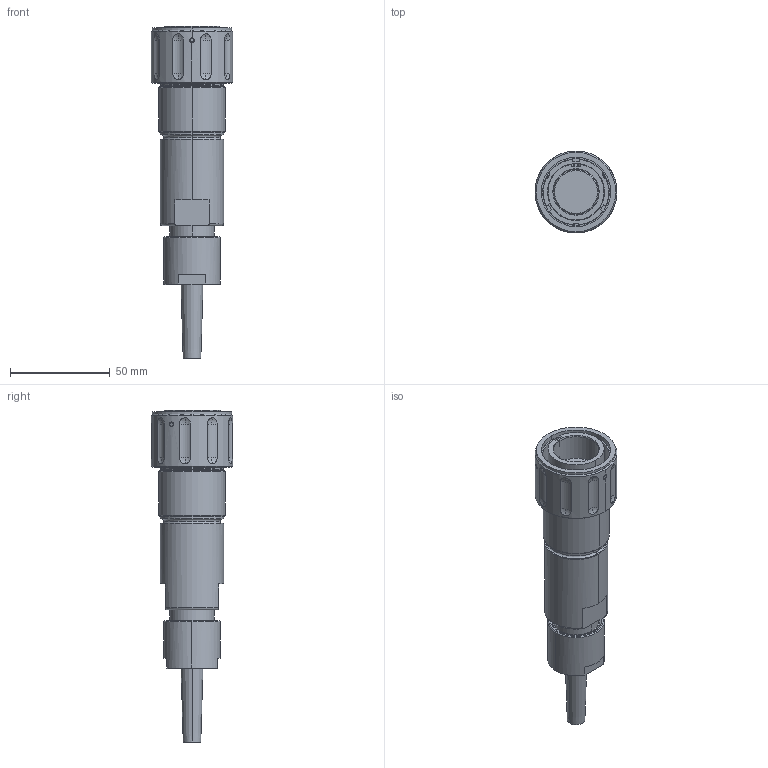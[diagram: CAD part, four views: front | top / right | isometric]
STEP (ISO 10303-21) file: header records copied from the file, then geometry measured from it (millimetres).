
FILE_DESCRIPTION (( 'STEP AP214' ), '1' );
FILE_NAME ('QLINK-PGBX-19XX-SXXX-R0.STEP', '2025-12-09T15:36:40', ( '' ), ( '' ), 'SwSTEP 2.0', 'SolidWorks 2024', '' );
FILE_SCHEMA (( 'AUTOMOTIVE_DESIGN' ));
Length unit declared in the file: millimetre
Products named in the file (1): QLINK-PGBX-19XX-SXXX-R0
Bounding box: 41.15 x 41.15 x 166.83 mm (x, y, z)
Volume: 104138.7 mm3; surface area: 24948.9 mm2
Topology: 5 solids, 5 shells, 246 faces, 577 edges, 365 vertices
Faces by surface type: cylinder 83, plane 64, cone 45, sphere 36, torus 12, bspline 6
Entity records: 9833 total; most frequent: CARTESIAN_POINT 4126, DIRECTION 1221, ORIENTED_EDGE 1154, EDGE_CURVE 577, AXIS2_PLACEMENT_3D 505, VERTEX_POINT 365, EDGE_LOOP 280, CIRCLE 264
